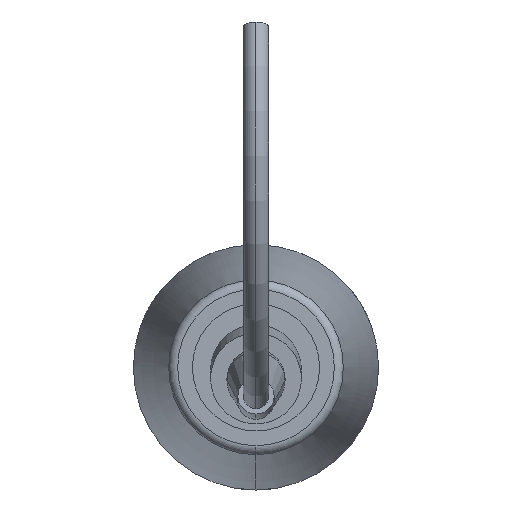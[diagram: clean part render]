
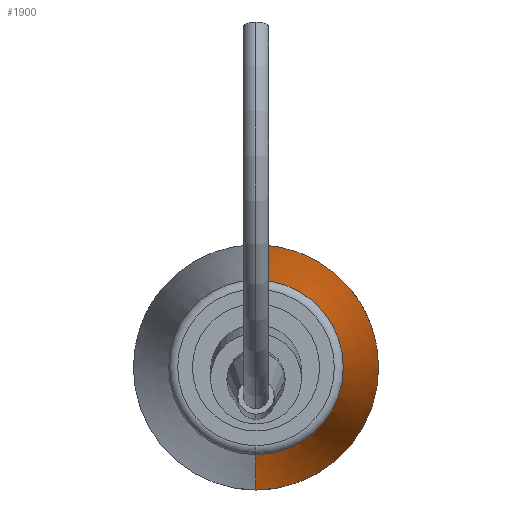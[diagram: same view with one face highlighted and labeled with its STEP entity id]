
A CAD part, left-side view. The second image highlights one B-rep face of the part: STEP entity #1900.
In plain terms, the highlighted toroidal (fillet/blend) face has major radius 486.03 mm and minor radius 500 mm.
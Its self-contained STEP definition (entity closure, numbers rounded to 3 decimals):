
#191 = AXIS2_PLACEMENT_3D ( 'NONE', #4063, #3881, #3910 ) ;
#403 = FACE_OUTER_BOUND ( 'NONE', #2033, .T. ) ;
#417 = TOROIDAL_SURFACE ( 'NONE', #191, -486.03, 500. ) ;
#1469 = AXIS2_PLACEMENT_3D ( 'NONE', #5488, #5472, #5463 ) ;
#1475 = AXIS2_PLACEMENT_3D ( 'NONE', #3533, #3850, #3269 ) ;
#1533 = EDGE_CURVE ( 'NONE', #6159, #6385, #2743, .T. ) ;
#1538 = EDGE_CURVE ( 'NONE', #6382, #6159, #2735, .T. ) ;
#1576 = EDGE_CURVE ( 'NONE', #6305, #6385, #2755, .T. ) ;
#1639 = EDGE_CURVE ( 'NONE', #6382, #6305, #2380, .T. ) ;
#1738 = AXIS2_PLACEMENT_3D ( 'NONE', #5293, #5642, #5706 ) ;
#1813 = AXIS2_PLACEMENT_3D ( 'NONE', #5494, #5479, #5495 ) ;
#1900 = ADVANCED_FACE ( 'NONE', ( #403 ), #417, .T. ) ;
#2033 = EDGE_LOOP ( 'NONE', ( #2461, #2499, #6152, #2362 ) ) ;
#2362 = ORIENTED_EDGE ( 'NONE', *, *, #1533, .F. ) ;
#2380 = CIRCLE ( 'NONE', #1475, 13.498 ) ;
#2461 = ORIENTED_EDGE ( 'NONE', *, *, #1538, .F. ) ;
#2499 = ORIENTED_EDGE ( 'NONE', *, *, #1639, .T. ) ;
#2735 = CIRCLE ( 'NONE', #1469, 500. ) ;
#2743 = CIRCLE ( 'NONE', #1813, 9.615 ) ;
#2755 = CIRCLE ( 'NONE', #1738, 500. ) ;
#3269 = DIRECTION ( 'NONE',  ( 0., 0., 1. ) ) ;
#3533 = CARTESIAN_POINT ( 'NONE',  ( -88.89, 0., 0. ) ) ;
#3850 = DIRECTION ( 'NONE',  ( -1., 0., 0. ) ) ;
#3881 = DIRECTION ( 'NONE',  ( -1., 0., 0. ) ) ;
#3901 = CARTESIAN_POINT ( 'NONE',  ( -133.022, 0., 9.615 ) ) ;
#3910 = DIRECTION ( 'NONE',  ( 0., 0., 1. ) ) ;
#4063 = CARTESIAN_POINT ( 'NONE',  ( -67.17, 0., 0. ) ) ;
#4446 = CARTESIAN_POINT ( 'NONE',  ( -88.89, 0., -13.498 ) ) ;
#4703 = CARTESIAN_POINT ( 'NONE',  ( -88.89, 0., 13.498 ) ) ;
#4706 = CARTESIAN_POINT ( 'NONE',  ( -133.022, 0., -9.615 ) ) ;
#5293 = CARTESIAN_POINT ( 'NONE',  ( -67.17, 0., -486.03 ) ) ;
#5463 = DIRECTION ( 'NONE',  ( 0., 0., 1. ) ) ;
#5472 = DIRECTION ( 'NONE',  ( 0., 1., 0. ) ) ;
#5479 = DIRECTION ( 'NONE',  ( -1., 0., 0. ) ) ;
#5488 = CARTESIAN_POINT ( 'NONE',  ( -67.17, 0., 486.03 ) ) ;
#5494 = CARTESIAN_POINT ( 'NONE',  ( -133.022, 0., 0. ) ) ;
#5495 = DIRECTION ( 'NONE',  ( 0., 0., 1. ) ) ;
#5642 = DIRECTION ( 'NONE',  ( 0., -1., 0. ) ) ;
#5706 = DIRECTION ( 'NONE',  ( 0., 0., -1. ) ) ;
#6152 = ORIENTED_EDGE ( 'NONE', *, *, #1576, .T. ) ;
#6159 = VERTEX_POINT ( 'NONE', #4706 ) ;
#6305 = VERTEX_POINT ( 'NONE', #4703 ) ;
#6382 = VERTEX_POINT ( 'NONE', #4446 ) ;
#6385 = VERTEX_POINT ( 'NONE', #3901 ) ;
